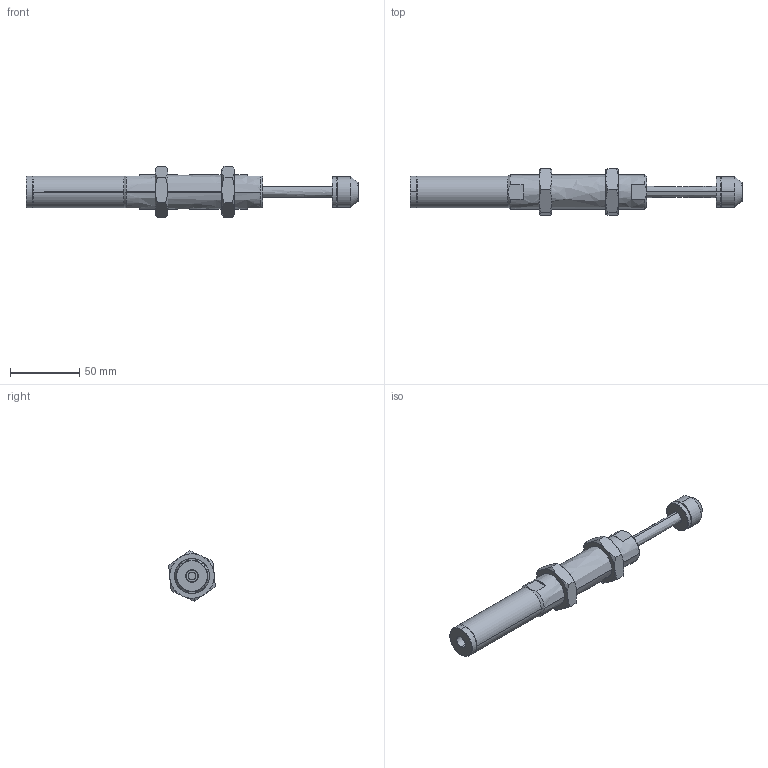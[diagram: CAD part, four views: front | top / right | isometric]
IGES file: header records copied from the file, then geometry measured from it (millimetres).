
Start section: SolidWorks IGES file using analytic representation for surfaces
Global section: file name: D:\IGS跡宒\AC2550(P2.0).IGS,1; native system: 5HSolidWorks 2013; preprocessor: SolidWorks 2013; author: Administrator; date: 160412.105945; units: inch
Bounding box: 239.2 x 33.63 x 36.78 mm (x, y, z)
Surface area: 27772.3 mm2 (no closed solid volume)
Topology: 0 solids, 0 shells, 121 faces, 1918 edges, 1918 vertices
Faces by surface type: revolution 87, bspline 34
